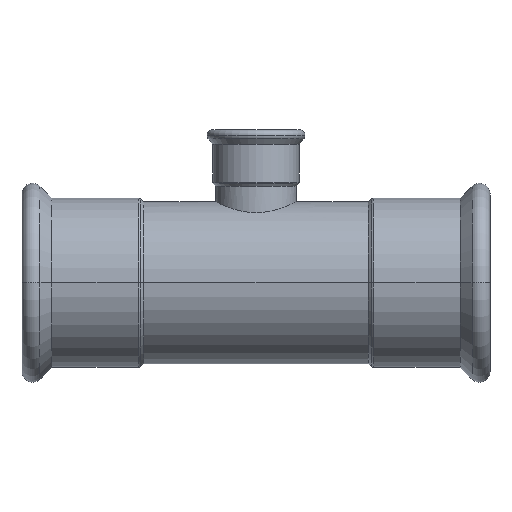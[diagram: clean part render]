
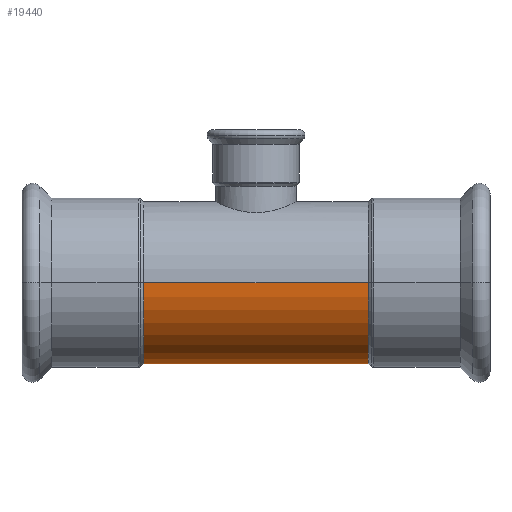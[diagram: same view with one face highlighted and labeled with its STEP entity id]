
A CAD part, front view. The second image highlights one B-rep face of the part: STEP entity #19440.
In plain terms, the highlighted cylindrical face has radius 54 mm (diameter 108 mm), a partial arc.
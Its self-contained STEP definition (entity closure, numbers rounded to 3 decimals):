
#6080=CARTESIAN_POINT('',(105.344,129.195,0.));
#6090=DIRECTION('',(1.,0.,0.));
#6100=DIRECTION('',(0.,0.,-1.));
#6110=AXIS2_PLACEMENT_3D('',#6080,#6090,#6100);
#6120=CYLINDRICAL_SURFACE('',#6110,54.);
#18950=CARTESIAN_POINT('',(-44.656,129.195,-54.));
#18960=VERTEX_POINT('',#18950);
#19040=CARTESIAN_POINT('',(-44.656,129.195,54.));
#19050=VERTEX_POINT('',#19040);
#19080=CARTESIAN_POINT('',(-44.656,129.195,0.));
#19090=DIRECTION('',(1.,0.,0.));
#19100=DIRECTION('',(0.,0.,-1.));
#19110=AXIS2_PLACEMENT_3D('',#19080,#19090,#19100);
#19120=CIRCLE('',#19110,54.);
#19130=EDGE_CURVE('',#19050,#18960,#19120,.T.);
#19180=CARTESIAN_POINT('',(105.344,129.195,54.));
#19190=DIRECTION('',(1.,0.,0.));
#19200=VECTOR('',#19190,1.);
#19210=LINE('',#19180,#19200);
#19220=CARTESIAN_POINT('',(105.344,129.195,54.));
#19230=VERTEX_POINT('',#19220);
#19240=EDGE_CURVE('',#19050,#19230,#19210,.T.);
#19250=ORIENTED_EDGE('',*,*,#19240,.F.);
#19260=CARTESIAN_POINT('',(105.344,129.195,0.));
#19270=DIRECTION('',(1.,0.,0.));
#19280=DIRECTION('',(0.,0.,1.));
#19290=AXIS2_PLACEMENT_3D('',#19260,#19270,#19280);
#19300=CIRCLE('',#19290,54.);
#19310=CARTESIAN_POINT('',(105.344,129.195,-54.));
#19320=VERTEX_POINT('',#19310);
#19330=EDGE_CURVE('',#19230,#19320,#19300,.T.);
#19340=ORIENTED_EDGE('',*,*,#19330,.F.);
#19350=CARTESIAN_POINT('',(105.344,129.195,-54.));
#19360=DIRECTION('',(1.,0.,0.));
#19370=VECTOR('',#19360,1.);
#19380=LINE('',#19350,#19370);
#19390=EDGE_CURVE('',#18960,#19320,#19380,.T.);
#19400=ORIENTED_EDGE('',*,*,#19390,.T.);
#19410=ORIENTED_EDGE('',*,*,#19130,.T.);
#19420=EDGE_LOOP('',(#19410,#19400,#19340,#19250));
#19430=FACE_OUTER_BOUND('',#19420,.T.);
#19440=ADVANCED_FACE('',(#19430),#6120,.T.);
